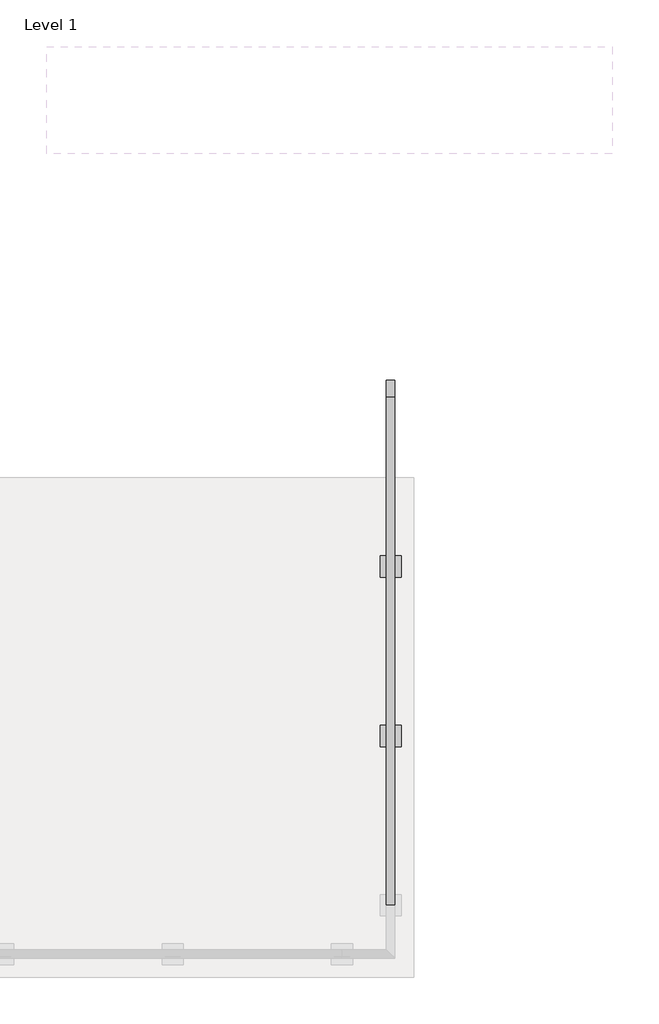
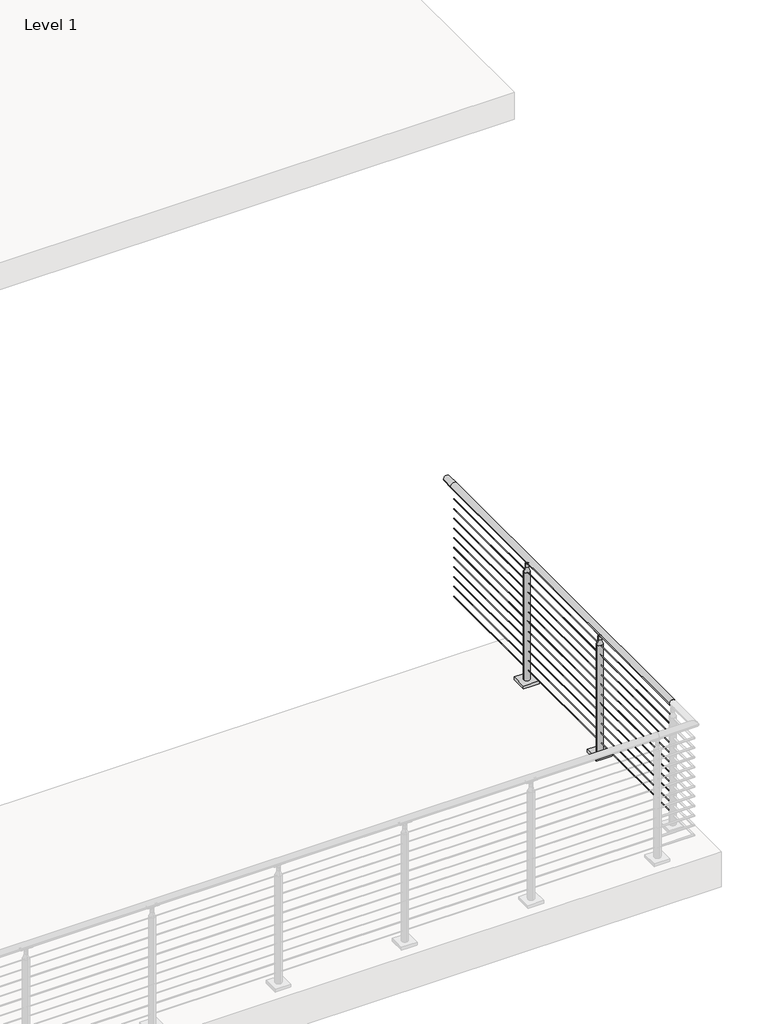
# One storey, part 12 of 21: 1 railing.
"""IFC4 building model written with IfcOpenShell, lengths in millimetres."""

import ifcopenshell
import ifcopenshell.guid

model = None  # the IFC model being written
_history = None  # IfcOwnerHistory: only IFC2X3 demands one
_inside = {}  # id of a spatial element -> (the spatial element, [elements in it])
_under = {}  # id of a project, library or spatial element -> (it, [spatial elements below it])
_declared = {}  # id of a project -> (the project, [libraries it declares])
_typed = {}  # id of a type object -> (the type object, [elements of that type])
_made_of = {}  # id of a material, layer set ... -> (it, [elements and type objects made of it])


def new_model(schema):
    """Start an empty IFC model of exactly this schema.

    Asked for "IFC4X3", IfcOpenShell would pick the latest addendum, in which some entities
    have other attributes; the version numbers below select the first issue.
    IFC2X3 requires an IfcOwnerHistory on every rooted entity: one is made here for all.
    """
    global model, _history
    if schema == "IFC4X3":
        model = ifcopenshell.file(schema_version=(4, 3, 0, 0))
    else:
        model = ifcopenshell.file(schema=schema)
    _inside.clear()
    _under.clear()
    _declared.clear()
    _typed.clear()
    _made_of.clear()
    _history = None
    if model.schema == "IFC2X3":
        org = make("IfcOrganization", Name="unknown")
        user = make(
            "IfcPersonAndOrganization",
            ThePerson=make("IfcPerson", FamilyName="unknown"),
            TheOrganization=org,
        )
        app = make(
            "IfcApplication",
            ApplicationDeveloper=org,
            Version="unknown",
            ApplicationFullName="unknown",
            ApplicationIdentifier="unknown",
        )
        _history = make(
            "IfcOwnerHistory",
            OwningUser=user,
            OwningApplication=app,
            ChangeAction="ADDED",
            CreationDate=0,
        )
    return model


def make(cls, **values):
    """One entity of the class cls with the attributes given. An attribute that is None is left unset."""
    return model.create_entity(
        cls, **{name: value for name, value in values.items() if value is not None}
    )


def rooted(cls, **values):
    """An entity with a GlobalId (a new one), such as an element, a storey or a relation."""
    return make(cls, GlobalId=ifcopenshell.guid.new(), OwnerHistory=_history, **values)


def si_unit(unit_type, name, prefix=None):
    """IfcSIUnit, for example si_unit("LENGTHUNIT", "METRE", prefix="MILLI")."""
    return make("IfcSIUnit", UnitType=unit_type, Prefix=prefix, Name=name)


def assignment(units):
    """IfcUnitAssignment: the units of a project."""
    return None if units is None else make("IfcUnitAssignment", Units=units)


def point(xyz):
    """IfcCartesianPoint."""
    return None if xyz is None else make("IfcCartesianPoint", Coordinates=xyz)


def direction(xyz):
    """IfcDirection."""
    return None if xyz is None else make("IfcDirection", DirectionRatios=xyz)


def frame(location, z_axis=None, x_axis=None):
    """IfcAxis2Placement3D, a coordinate frame: its origin and axes. An axis left out is left unset."""
    return make(
        "IfcAxis2Placement3D",
        Location=point(location),
        Axis=direction(z_axis),
        RefDirection=direction(x_axis),
    )


def frame_2d(location, x_axis=None):
    """IfcAxis2Placement2D, a coordinate frame in the plane: its origin and x axis."""
    return make(
        "IfcAxis2Placement2D", Location=point(location), RefDirection=direction(x_axis)
    )


def origin():
    """The frame at (0, 0, 0) with its axes left unset."""
    return frame((0.0, 0.0, 0.0))


def origin_with_axes():
    """The frame at (0, 0, 0) with the z axis (0, 0, 1) and the x axis (1, 0, 0) written out."""
    return frame((0.0, 0.0, 0.0), z_axis=(0.0, 0.0, 1.0), x_axis=(1.0, 0.0, 0.0))


def place(relative_to, where):
    """IfcLocalPlacement: puts the frame where relative to a parent placement (None: the world)."""
    return make(
        "IfcLocalPlacement", PlacementRelTo=relative_to, RelativePlacement=where
    )


def context(
    kind, dimensions, precision=None, world=None, true_north=None, identifier=None
):
    """IfcGeometricRepresentationContext, for example the 3D "Model" context."""
    return make(
        "IfcGeometricRepresentationContext",
        ContextIdentifier=identifier,
        ContextType=kind,
        CoordinateSpaceDimension=dimensions,
        Precision=precision,
        WorldCoordinateSystem=world,
        TrueNorth=true_north,
    )


def project(units=None, contexts=None):
    """IfcProject with its units and contexts."""
    return rooted(
        "IfcProject",
        Name="project",
        RepresentationContexts=contexts,
        UnitsInContext=assignment(units),
    )


def spatial(cls, under=None, at=None, **own):
    """A site, building, storey or space (cls), placed at a placement, below another one or the project."""
    s = rooted(cls, ObjectPlacement=at, **own)
    if under is not None:
        _under.setdefault(under.id(), (under, []))[1].append(s)
    return s


def polyline(points):
    """IfcPolyline through the points."""
    return make("IfcPolyline", Points=[point(p) for p in points])


def circle_curve(where, radius):
    """IfcCircle in the frame where."""
    return make("IfcCircle", Position=where, Radius=radius)


def ellipse_curve(where, semi_axis1, semi_axis2):
    """IfcEllipse in the frame where."""
    return make(
        "IfcEllipse", Position=where, SemiAxis1=semi_axis1, SemiAxis2=semi_axis2
    )


def trimmed(basis, trim1, trim2, sense, master):
    """IfcTrimmedCurve: the piece of a basis curve between two trims."""
    return make(
        "IfcTrimmedCurve",
        BasisCurve=basis,
        Trim1=trim1,
        Trim2=trim2,
        SenseAgreement=sense,
        MasterRepresentation=master,
    )


def segment(curve, same_sense, transition):
    """IfcCompositeCurveSegment."""
    return make(
        "IfcCompositeCurveSegment",
        Transition=transition,
        SameSense=same_sense,
        ParentCurve=curve,
    )


def composite_curve(segments, self_intersect=None):
    """IfcCompositeCurve: segments joined end to end."""
    return make("IfcCompositeCurve", Segments=segments, SelfIntersect=self_intersect)


def outline(outer, holes=None, kind="AREA"):
    """IfcArbitraryClosedProfileDef: a profile drawn as a closed curve; with holes, ...WithVoids."""
    if holes is None:
        return make("IfcArbitraryClosedProfileDef", ProfileType=kind, OuterCurve=outer)
    return make(
        "IfcArbitraryProfileDefWithVoids",
        ProfileType=kind,
        OuterCurve=outer,
        InnerCurves=holes,
    )


def extrude(swept, where, along, depth):
    """IfcExtrudedAreaSolid: the profile swept, set in the frame where, extruded along a direction by depth."""
    return make(
        "IfcExtrudedAreaSolid",
        SweptArea=swept,
        Position=where,
        ExtrudedDirection=direction(along),
        Depth=depth,
    )


def shape(context_of_items, identifier, shape_type, items):
    """IfcShapeRepresentation: the items that make up one representation, for example the "Body"."""
    return make(
        "IfcShapeRepresentation",
        ContextOfItems=context_of_items,
        RepresentationIdentifier=identifier,
        RepresentationType=shape_type,
        Items=items,
    )


def made_of(thing, what):
    """Note that an element or type object is made of a material, layer set ...; save() writes the relation."""
    if what is not None:
        _made_of.setdefault(what.id(), (what, []))[1].append(thing)
    return thing


def element(
    cls,
    number,
    at=None,
    inside=None,
    cuts=None,
    type_object=None,
    material=None,
    context=None,
    identifier="Body",
    shape_type=None,
    held_by="IfcProductDefinitionShape",
    body=None,
    shapes=None,
    **own,
):
    """One element of the class cls, such as IfcWall. Its Tag is "e" and its number.

    at: its placement. inside: the storey or other place that contains it. cuts: it is an
    opening in that element (IfcRelVoidsElement). A single representation is given by context,
    identifier, shape_type and body (its items); several are given by shapes. held_by: the class
    of the entity that holds the representations. save() writes the other relations.
    """
    e = rooted(cls, Tag="e%d" % number, ObjectPlacement=at, **own)
    if body is not None:
        shapes = [shape(context, identifier, shape_type, body)]
    if shapes is not None:
        e.Representation = make(held_by, Representations=shapes)
    if inside is not None:
        _inside.setdefault(inside.id(), (inside, []))[1].append(e)
    if cuts is not None:
        rooted(
            "IfcRelVoidsElement", RelatingBuildingElement=cuts, RelatedOpeningElement=e
        )
    if type_object is not None:
        _typed.setdefault(type_object.id(), (type_object, []))[1].append(e)
    return made_of(e, material)


def aggregate(whole, parts):
    """IfcRelAggregates: a whole, such as a stair, and the parts it consists of."""
    return rooted("IfcRelAggregates", RelatingObject=whole, RelatedObjects=parts)


def save(model, path):
    """Write the relations noted so far, then the file.

    IfcRelAggregates (storeys below a building ...), IfcRelContainedInSpatialStructure (elements
    in a storey), IfcRelDefinesByType, IfcRelAssociatesMaterial and IfcRelDeclares: one each for
    every whole, place, type object, material and project.
    """
    for whole, parts in _under.values():
        aggregate(whole, parts)
    for where, things in _inside.values():
        rooted(
            "IfcRelContainedInSpatialStructure",
            RelatedElements=things,
            RelatingStructure=where,
        )
    for kind, things in _typed.values():
        rooted("IfcRelDefinesByType", RelatedObjects=things, RelatingType=kind)
    for what, things in _made_of.values():
        rooted("IfcRelAssociatesMaterial", RelatedObjects=things, RelatingMaterial=what)
    for by, libraries in _declared.values():
        rooted("IfcRelDeclares", RelatingContext=by, RelatedDefinitions=libraries)
    model.write(path)


def plane_surface(at):
    """IfcPlane: the flat surface through the origin of the frame at, square to its z axis."""
    return make("IfcPlane", Position=at)


def cylinder_surface(at, radius):
    """IfcCylindricalSurface: all points at the distance radius from the z axis of the frame at."""
    return make("IfcCylindricalSurface", Position=at, Radius=radius)


def revolved_surface(curve, axis_point, axis_direction):
    """IfcSurfaceOfRevolution: the curve turned about the line through axis_point along axis_direction."""
    return make(
        "IfcSurfaceOfRevolution",
        SweptCurve=make("IfcArbitraryOpenProfileDef", ProfileType="CURVE", Curve=curve),
        AxisPosition=make("IfcAxis1Placement", Location=point(axis_point), Axis=direction(axis_direction)),
    )


def advanced_brep(points, edges, surfaces, faces):
    """IfcAdvancedBrep: a solid bounded by faces that lie on surfaces and meet in shared edges.

    An edge is (start, end): straight between two places in points (the first is 0);
    or (start, end, curve); or (start, end, curve, False) where it runs against its curve.
    A face is (place in surfaces, loops), or (place, loops, False) where it looks against
    its surface's normal. A loop lists edges by number (the first is 1), with a minus sign
    where the edge is run from its end to its start. The first loop is the outer one.
    """
    corners = [point(p) for p in points]
    vertices = [make("IfcVertexPoint", VertexGeometry=c) for c in corners]
    made = []
    for start, end, *more in edges:
        made.append(
            make(
                "IfcEdgeCurve",
                EdgeStart=vertices[start],
                EdgeEnd=vertices[end],
                EdgeGeometry=more[0] if more else make("IfcPolyline", Points=[corners[start], corners[end]]),
                SameSense=more[1] if len(more) > 1 else True,
            )
        )
    hull = []
    for where, loops, *sense in faces:
        bounds = []
        for j, loop in enumerate(loops):
            ring = [make("IfcOrientedEdge", EdgeElement=made[abs(k) - 1], Orientation=k > 0) for k in loop]
            bounds.append(
                make(
                    "IfcFaceOuterBound" if j == 0 else "IfcFaceBound",
                    Bound=make("IfcEdgeLoop", EdgeList=ring),
                    Orientation=True,
                )
            )
        hull.append(make("IfcAdvancedFace", Bounds=bounds, FaceSurface=surfaces[where], SameSense=sense[0] if sense else True))
    return make("IfcAdvancedBrep", Outer=make("IfcClosedShell", CfsFaces=hull))


model = new_model("IFC4")

# Units and contexts
model_context = context("Model", 3, world=origin())
ifc_project = project(units=[si_unit("LENGTHUNIT", "METRE", prefix="MILLI")], contexts=[model_context])

# Site, building, storey
site = spatial("IfcSite", under=ifc_project)
building = spatial("IfcBuilding", under=site)
storey = spatial("IfcBuildingStorey", under=building, Name="Level 1", Elevation=0.0)

# Railing
placement = place(None, origin())
element("IfcRailing", 1, ObjectType="VIVA-CIRCA-Cable-Floor Mount-Straight", at=placement, inside=storey, context=model_context, shape_type="SolidModel", body=[
    advanced_brep(
    [(19629.2855247, -56752.6334719, 1054.1), (19578.4855247, -56752.6334719, 1054.1), (19629.2855247, -53704.6334719, 1054.1), (19578.4855247, -53704.6334719, 1054.1), (19629.2855247, -53603.0334719, 1054.1), (19578.4855247, -53603.0334719, 1054.1)],
    [
        (0, 1, circle_curve(frame((19603.8855247, -56752.6334719, 1054.1), z_axis=(0.0, -1.0, 0.0), x_axis=(-1.0, 0.0, 0.0)), 25.4)),
        (1, 0, circle_curve(frame((19603.8855247, -56752.6334719, 1054.1), z_axis=(0.0, -1.0, 0.0), x_axis=(-1.0, 0.0, 0.0)), 25.4)),
        (0, 2),
        (2, 3, circle_curve(frame((19603.8855247, -53704.6334719, 1054.1), z_axis=(0.0, -1.0, 0.0), x_axis=(-1.0, 0.0, 0.0)), 25.4)),
        (3, 1),
        (3, 2, circle_curve(frame((19603.8855247, -53704.6334719, 1054.1), z_axis=(0.0, -1.0, 0.0), x_axis=(-1.0, 0.0, 0.0)), 25.4)),
        (4, 5, circle_curve(frame((19603.8855247, -53603.0334719, 1054.1), z_axis=(0.0, 1.0, 0.0), x_axis=(-1.0, 0.0, 0.0)), 25.4)),
        (5, 4, circle_curve(frame((19603.8855247, -53603.0334719, 1054.1), z_axis=(0.0, 1.0, 0.0), x_axis=(-1.0, 0.0, 0.0)), 25.4)),
        (2, 4),
        (5, 3),
    ],
    [
        plane_surface(frame((19603.8855247, -56752.6334719, 1079.5), z_axis=(0.0, -1.0, 0.0), x_axis=(0.0, 0.0, 1.0))),
        cylinder_surface(frame((19603.8855247, -56752.6334719, 1054.1), z_axis=(0.0, -1.0, 0.0), x_axis=(-1.0, 0.0, 0.0)), 25.4),
        plane_surface(frame((19603.8855247, -53603.0334719, 1079.5), z_axis=(0.0, 1.0, 0.0), x_axis=(0.0, 0.0, 1.0))),
        cylinder_surface(frame((19603.8855247, -53704.6334719, 1054.1), z_axis=(0.0, -1.0, 0.0), x_axis=(-1.0, 0.0, 0.0)), 25.4),
    ],
    [
        (0, [[1, 2]]),
        (1, [[-1, 3, 4, 5]]),
        (1, [[-2, -5, 6, -3]]),
        (2, [[7, 8]]),
        (3, [[-4, 9, -8, 10]]),
        (3, [[-6, -10, -7, -9]]),
    ],
),
    extrude(outline(composite_curve([segment(trimmed(circle_curve(frame_2d((937.4124, 19603.8855247)), 2.3876), [point((937.4124, 19601.4979247))], [point((937.4124, 19606.2731247))], False, "CARTESIAN"), True, "CONTINUOUS"), segment(trimmed(circle_curve(frame_2d((937.4124, 19603.8855247)), 2.3876), [point((937.4124, 19606.2731247))], [point((937.4124, 19601.4979247))], False, "CARTESIAN"), True, "CONTINUOUS")], self_intersect=False)), frame((0.0, -56752.6334719, 0.0), z_axis=(0.0, 1.0, 0.0), x_axis=(0.0, 0.0, 1.0)), (0.0, 0.0, 1.0), 3048.0),
    extrude(outline(composite_curve([segment(trimmed(circle_curve(frame_2d((854.8624, 19603.8855247)), 2.3876), [point((854.8624, 19601.4979247))], [point((854.8624, 19606.2731247))], False, "CARTESIAN"), True, "CONTINUOUS"), segment(trimmed(circle_curve(frame_2d((854.8624, 19603.8855247)), 2.3876), [point((854.8624, 19606.2731247))], [point((854.8624, 19601.4979247))], False, "CARTESIAN"), True, "CONTINUOUS")], self_intersect=False)), frame((0.0, -56752.6334719, 0.0), z_axis=(0.0, 1.0, 0.0), x_axis=(0.0, 0.0, 1.0)), (0.0, 0.0, 1.0), 3048.0),
    extrude(outline(composite_curve([segment(trimmed(circle_curve(frame_2d((772.3124, 19603.8855247)), 2.3876), [point((772.3124, 19601.4979247))], [point((772.3124, 19606.2731247))], False, "CARTESIAN"), True, "CONTINUOUS"), segment(trimmed(circle_curve(frame_2d((772.3124, 19603.8855247)), 2.3876), [point((772.3124, 19606.2731247))], [point((772.3124, 19601.4979247))], False, "CARTESIAN"), True, "CONTINUOUS")], self_intersect=False)), frame((0.0, -56752.6334719, 0.0), z_axis=(0.0, 1.0, 0.0), x_axis=(0.0, 0.0, 1.0)), (0.0, 0.0, 1.0), 3048.0),
    extrude(outline(composite_curve([segment(trimmed(circle_curve(frame_2d((689.7624, 19603.8855247)), 2.3876), [point((689.7624, 19601.4979247))], [point((689.7624, 19606.2731247))], False, "CARTESIAN"), True, "CONTINUOUS"), segment(trimmed(circle_curve(frame_2d((689.7624, 19603.8855247)), 2.3876), [point((689.7624, 19606.2731247))], [point((689.7624, 19601.4979247))], False, "CARTESIAN"), True, "CONTINUOUS")], self_intersect=False)), frame((0.0, -56752.6334719, 0.0), z_axis=(0.0, 1.0, 0.0), x_axis=(0.0, 0.0, 1.0)), (0.0, 0.0, 1.0), 3048.0),
    extrude(outline(composite_curve([segment(trimmed(circle_curve(frame_2d((607.2124, 19603.8855247)), 2.3876), [point((607.2124, 19601.4979247))], [point((607.2124, 19606.2731247))], False, "CARTESIAN"), True, "CONTINUOUS"), segment(trimmed(circle_curve(frame_2d((607.2124, 19603.8855247)), 2.3876), [point((607.2124, 19606.2731247))], [point((607.2124, 19601.4979247))], False, "CARTESIAN"), True, "CONTINUOUS")], self_intersect=False)), frame((0.0, -56752.6334719, 0.0), z_axis=(0.0, 1.0, 0.0), x_axis=(0.0, 0.0, 1.0)), (0.0, 0.0, 1.0), 3048.0),
    extrude(outline(composite_curve([segment(trimmed(circle_curve(frame_2d((524.6624, 19603.8855247)), 2.3876), [point((524.6624, 19601.4979247))], [point((524.6624, 19606.2731247))], False, "CARTESIAN"), True, "CONTINUOUS"), segment(trimmed(circle_curve(frame_2d((524.6624, 19603.8855247)), 2.3876), [point((524.6624, 19606.2731247))], [point((524.6624, 19601.4979247))], False, "CARTESIAN"), True, "CONTINUOUS")], self_intersect=False)), frame((0.0, -56752.6334719, 0.0), z_axis=(0.0, 1.0, 0.0), x_axis=(0.0, 0.0, 1.0)), (0.0, 0.0, 1.0), 3048.0),
    extrude(outline(composite_curve([segment(trimmed(circle_curve(frame_2d((442.1124, 19603.8855247)), 2.3876), [point((442.1124, 19601.4979247))], [point((442.1124, 19606.2731247))], False, "CARTESIAN"), True, "CONTINUOUS"), segment(trimmed(circle_curve(frame_2d((442.1124, 19603.8855247)), 2.3876), [point((442.1124, 19606.2731247))], [point((442.1124, 19601.4979247))], False, "CARTESIAN"), True, "CONTINUOUS")], self_intersect=False)), frame((0.0, -56752.6334719, 0.0), z_axis=(0.0, 1.0, 0.0), x_axis=(0.0, 0.0, 1.0)), (0.0, 0.0, 1.0), 3048.0),
    extrude(outline(composite_curve([segment(trimmed(circle_curve(frame_2d((359.5624, 19603.8855247)), 2.3876), [point((359.5624, 19601.4979247))], [point((359.5624, 19606.2731247))], False, "CARTESIAN"), True, "CONTINUOUS"), segment(trimmed(circle_curve(frame_2d((359.5624, 19603.8855247)), 2.3876), [point((359.5624, 19606.2731247))], [point((359.5624, 19601.4979247))], False, "CARTESIAN"), True, "CONTINUOUS")], self_intersect=False)), frame((0.0, -56752.6334719, 0.0), z_axis=(0.0, 1.0, 0.0), x_axis=(0.0, 0.0, 1.0)), (0.0, 0.0, 1.0), 3048.0),
    extrude(outline(composite_curve([segment(trimmed(circle_curve(frame_2d((277.0124, 19603.8855247)), 2.3876), [point((277.0124, 19601.4979247))], [point((277.0124, 19606.2731247))], False, "CARTESIAN"), True, "CONTINUOUS"), segment(trimmed(circle_curve(frame_2d((277.0124, 19603.8855247)), 2.3876), [point((277.0124, 19606.2731247))], [point((277.0124, 19601.4979247))], False, "CARTESIAN"), True, "CONTINUOUS")], self_intersect=False)), frame((0.0, -56752.6334719, 0.0), z_axis=(0.0, 1.0, 0.0), x_axis=(0.0, 0.0, 1.0)), (0.0, 0.0, 1.0), 3048.0),
    extrude(outline(composite_curve([segment(trimmed(circle_curve(frame_2d((194.4624, 19603.8855247)), 2.3876), [point((194.4624, 19601.4979247))], [point((194.4624, 19606.2731247))], False, "CARTESIAN"), True, "CONTINUOUS"), segment(trimmed(circle_curve(frame_2d((194.4624, 19603.8855247)), 2.3876), [point((194.4624, 19606.2731247))], [point((194.4624, 19601.4979247))], False, "CARTESIAN"), True, "CONTINUOUS")], self_intersect=False)), frame((0.0, -56752.6334719, 0.0), z_axis=(0.0, 1.0, 0.0), x_axis=(0.0, 0.0, 1.0)), (0.0, 0.0, 1.0), 3048.0),
    extrude(outline(composite_curve([segment(trimmed(circle_curve(frame_2d((111.9124, 19603.8855247)), 2.3876), [point((111.9124, 19601.4979247))], [point((111.9124, 19606.2731247))], False, "CARTESIAN"), True, "CONTINUOUS"), segment(trimmed(circle_curve(frame_2d((111.9124, 19603.8855247)), 2.3876), [point((111.9124, 19606.2731247))], [point((111.9124, 19601.4979247))], False, "CARTESIAN"), True, "CONTINUOUS")], self_intersect=False)), frame((0.0, -56752.6334719, 0.0), z_axis=(0.0, 1.0, 0.0), x_axis=(0.0, 0.0, 1.0)), (0.0, 0.0, 1.0), 3048.0),
    extrude(outline(composite_curve([segment(trimmed(circle_curve(frame_2d((1055.4254922, 19603.7887963)), 25.4345159), [point((1033.3106679, 19616.3525992))], [point((1033.2157471, 19591.3935626))], True, "CARTESIAN"), True, "CONTINUOUS"), segment(trimmed(circle_curve(frame_2d((1030.7132623, 19590.1489094)), 2.7949225), [point((1033.2157471, 19591.3935626))], [point((1028.3406769, 19588.6716044))], False, "CARTESIAN"), True, "CONTINUOUS"), segment(trimmed(circle_curve(frame_2d((1056.1881188, 19603.9222594)), 31.75), [point((1028.3406769, 19588.6716044))], [point((1028.9214354, 19620.1884966))], False, "CARTESIAN"), True, "CONTINUOUS"), segment(trimmed(circle_curve(frame_2d((1030.7923545, 19617.9001569)), 2.9558141), [point((1028.9214354, 19620.1884966))], [point((1033.3106679, 19616.3525992))], False, "CARTESIAN"), True, "CONTINUOUS")], self_intersect=False)), frame((0.0, -54765.4739969, 0.0), z_axis=(0.0, 1.0, 0.0), x_axis=(0.0, 0.0, 1.0)), (0.0, 0.0, 1.0), 90.4748),
    extrude(outline(composite_curve([segment(trimmed(circle_curve(frame_2d((-54693.168682, 1010.282776)), 14.3679149), [point((-54693.168682, 1024.6506908))], [point((-54707.5365969, 1010.282776))], True, "CARTESIAN"), True, "CONTINUOUS"), segment(trimmed(circle_curve(frame_2d((-54720.2365969, 1010.282776)), 12.7), [point((-54707.5365969, 1010.282776))], [point((-54732.9365969, 1010.282776))], False, "CARTESIAN"), True, "CONTINUOUS"), segment(trimmed(circle_curve(frame_2d((-54747.3045117, 1010.282776)), 14.3679149), [point((-54732.9365969, 1010.282776))], [point((-54747.3045117, 1024.6506908))], True, "CARTESIAN"), True, "CONTINUOUS"), segment(polyline([(-54747.3045117, 1024.6506908), (-54693.168682, 1024.6506908)]), True, "CONTINUOUS")], self_intersect=False)), frame((19601.3455247, 0.0, 0.0), z_axis=(1.0, 0.0, 0.0), x_axis=(0.0, 1.0, 0.0)), (0.0, 0.0, 1.0), 5.08),
    extrude(outline(polyline([(19667.3855247, -54783.7365969), (19540.3855247, -54783.7365969), (19540.3855247, -54656.7365969), (19667.3855247, -54656.7365969), (19667.3855247, -54783.7365969)])), origin_with_axes(), (0.0, 0.0, 1.0), 25.4),
    advanced_brep(
    [(19629.2849225, -54720.2365969, 941.1347854), (19578.4861269, -54720.2365969, 941.1347854), (19578.4861269, -54720.2365969, 25.4), (19629.2849225, -54720.2365969, 25.4), (19616.6234932, -54720.2365969, 979.3486202), (19591.1475562, -54720.2365969, 979.3486202), (19616.6234932, -54720.2365969, 1008.5779599), (19591.1475562, -54720.2365969, 1008.5779599), (19603.8855247, -54720.2365969, 1015.238668), (19603.8855247, -54720.2365969, 25.4)],
    [
        (0, 1, circle_curve(frame((19603.8855247, -54720.2365969, 941.1347854), z_axis=(0.0, 0.0, -1.0), x_axis=(-1.0, 0.0, 0.0)), 25.3993978)),
        (1, 2),
        (2, 3, circle_curve(frame((19603.8855247, -54720.2365969, 25.4), z_axis=(0.0, 0.0, 1.0), x_axis=(-1.0, 0.0, 0.0)), 25.3993978)),
        (3, 0),
        (1, 0, circle_curve(frame((19603.8855247, -54720.2365969, 941.1347854), z_axis=(0.0, 0.0, -1.0), x_axis=(-1.0, 0.0, 0.0)), 25.3993978)),
        (3, 2, circle_curve(frame((19603.8855247, -54720.2365969, 25.4), z_axis=(0.0, 0.0, 1.0), x_axis=(-1.0, 0.0, 0.0)), 25.3993978)),
        (4, 5, circle_curve(frame((19603.8855247, -54720.2365969, 979.3486202), z_axis=(0.0, 0.0, -1.0), x_axis=(-1.0, 0.0, 0.0)), 12.7379685)),
        (5, 1, circle_curve(frame((19527.1496879, -54720.2365969, 979.3486202), z_axis=(0.0, 1.0, 0.0), x_axis=(-1.0, 0.0, 0.0)), 63.9978683)),
        (0, 4, circle_curve(frame((19680.6213615, -54720.2365969, 979.3486202), z_axis=(0.0, 1.0, 0.0), x_axis=(1.0, 0.0, 0.0)), 63.9978683)),
        (5, 4, circle_curve(frame((19603.8855247, -54720.2365969, 979.3486202), z_axis=(0.0, 0.0, -1.0), x_axis=(-1.0, 0.0, 0.0)), 12.7379685)),
        (6, 7, circle_curve(frame((19603.8855247, -54720.2365969, 1008.5779599), z_axis=(0.0, 0.0, -1.0), x_axis=(-1.0, 0.0, 0.0)), 12.7379685)),
        (7, 5),
        (4, 6),
        (7, 6, circle_curve(frame((19603.8855247, -54720.2365969, 1008.5779599), z_axis=(0.0, 0.0, -1.0), x_axis=(-1.0, 0.0, 0.0)), 12.7379685)),
        (8, 7, circle_curve(frame((19603.8855247, -54720.2365969, 999.7282394), z_axis=(0.0, -1.0, 0.0), x_axis=(-1.0, 0.0, 0.0)), 15.5104286)),
        (6, 8, circle_curve(frame((19603.8855247, -54720.2365969, 999.7282394), z_axis=(0.0, -1.0, 0.0), x_axis=(1.0, 0.0, 0.0)), 15.5104286)),
        (2, 9),
        (9, 3),
    ],
    [
        cylinder_surface(frame((19603.8855247, -54720.2365969, 1104.9), z_axis=(0.0, 0.0, 1.0), x_axis=(-1.0, 0.0, 0.0)), 25.3993978),
        revolved_surface(trimmed(ellipse_curve(frame((19527.1496879, -54720.2365969, 979.3486202), z_axis=(0.0, -1.0, 0.0), x_axis=(-1.0, 0.0, 0.0)), 63.9978683, 63.9978683), [point((19578.4861269, -54720.2365969, 941.1347854))], [point((19591.1475562, -54720.2365969, 979.3486202))], True, "CARTESIAN"), (19603.8855247, -54720.2365969, 1104.9), (0.0, 0.0, 1.0)),
        cylinder_surface(frame((19603.8855247, -54720.2365969, 1104.9), z_axis=(0.0, 0.0, 1.0), x_axis=(-1.0, 0.0, 0.0)), 12.7379685),
        revolved_surface(trimmed(ellipse_curve(frame((19603.8855247, -54720.2365969, 999.7282394), z_axis=(0.0, 1.0, 0.0), x_axis=(-1.0, 0.0, 0.0)), 15.5104286, 15.5104286), [point((19591.1475562, -54720.2365969, 1008.5779599))], [point((19603.8855247, -54720.2365969, 1015.238668))], True, "CARTESIAN"), (19603.8855247, -54720.2365969, 1104.9), (0.0, 0.0, 1.0)),
        plane_surface(frame((19603.8855247, -54720.2365969, 25.4), z_axis=(0.0, 0.0, -1.0), x_axis=(-1.0, 0.0, 0.0))),
    ],
    [
        (0, [[1, 2, 3, 4]]),
        (0, [[5, -4, 6, -2]]),
        (1, [[7, 8, -1, 9]]),
        (1, [[10, -9, -5, -8]]),
        (2, [[11, 12, -7, 13]]),
        (2, [[14, -13, -10, -12]]),
        (3, [[15, -11, 16]]),
        (3, [[-16, -14, -15]]),
        (4, [[-3, 17, 18]]),
        (4, [[-6, -18, -17]]),
    ],
),
    extrude(outline(composite_curve([segment(trimmed(circle_curve(frame_2d((1055.4254922, 19603.7887963)), 25.4345159), [point((1033.3106679, 19616.3525992))], [point((1033.2157471, 19591.3935626))], True, "CARTESIAN"), True, "CONTINUOUS"), segment(trimmed(circle_curve(frame_2d((1030.7132623, 19590.1489094)), 2.7949225), [point((1033.2157471, 19591.3935626))], [point((1028.3406769, 19588.6716044))], False, "CARTESIAN"), True, "CONTINUOUS"), segment(trimmed(circle_curve(frame_2d((1056.1881188, 19603.9222594)), 31.75), [point((1028.3406769, 19588.6716044))], [point((1028.9214354, 19620.1884966))], False, "CARTESIAN"), True, "CONTINUOUS"), segment(trimmed(circle_curve(frame_2d((1030.7923545, 19617.9001569)), 2.9558141), [point((1028.9214354, 19620.1884966))], [point((1033.3106679, 19616.3525992))], False, "CARTESIAN"), True, "CONTINUOUS")], self_intersect=False)), frame((0.0, -55781.4739969, 0.0), z_axis=(0.0, 1.0, 0.0), x_axis=(0.0, 0.0, 1.0)), (0.0, 0.0, 1.0), 90.4748),
    extrude(outline(composite_curve([segment(trimmed(circle_curve(frame_2d((-55709.168682, 1010.282776)), 14.3679149), [point((-55709.168682, 1024.6506908))], [point((-55723.5365969, 1010.282776))], True, "CARTESIAN"), True, "CONTINUOUS"), segment(trimmed(circle_curve(frame_2d((-55736.2365969, 1010.282776)), 12.7), [point((-55723.5365969, 1010.282776))], [point((-55748.9365969, 1010.282776))], False, "CARTESIAN"), True, "CONTINUOUS"), segment(trimmed(circle_curve(frame_2d((-55763.3045117, 1010.282776)), 14.3679149), [point((-55748.9365969, 1010.282776))], [point((-55763.3045117, 1024.6506908))], True, "CARTESIAN"), True, "CONTINUOUS"), segment(polyline([(-55763.3045117, 1024.6506908), (-55709.168682, 1024.6506908)]), True, "CONTINUOUS")], self_intersect=False)), frame((19601.3455247, 0.0, 0.0), z_axis=(1.0, 0.0, 0.0), x_axis=(0.0, 1.0, 0.0)), (0.0, 0.0, 1.0), 5.08),
    extrude(outline(polyline([(19667.3855247, -55799.7365969), (19540.3855247, -55799.7365969), (19540.3855247, -55672.7365969), (19667.3855247, -55672.7365969), (19667.3855247, -55799.7365969)])), origin_with_axes(), (0.0, 0.0, 1.0), 25.4),
    advanced_brep(
    [(19629.2849225, -55736.2365969, 941.1347854), (19578.4861269, -55736.2365969, 941.1347854), (19578.4861269, -55736.2365969, 25.4), (19629.2849225, -55736.2365969, 25.4), (19616.6234932, -55736.2365969, 979.3486202), (19591.1475562, -55736.2365969, 979.3486202), (19616.6234932, -55736.2365969, 1008.5779599), (19591.1475562, -55736.2365969, 1008.5779599), (19603.8855247, -55736.2365969, 1015.238668), (19603.8855247, -55736.2365969, 25.4)],
    [
        (0, 1, circle_curve(frame((19603.8855247, -55736.2365969, 941.1347854), z_axis=(0.0, 0.0, -1.0), x_axis=(-1.0, 0.0, 0.0)), 25.3993978)),
        (1, 2),
        (2, 3, circle_curve(frame((19603.8855247, -55736.2365969, 25.4), z_axis=(0.0, 0.0, 1.0), x_axis=(-1.0, 0.0, 0.0)), 25.3993978)),
        (3, 0),
        (1, 0, circle_curve(frame((19603.8855247, -55736.2365969, 941.1347854), z_axis=(0.0, 0.0, -1.0), x_axis=(-1.0, 0.0, 0.0)), 25.3993978)),
        (3, 2, circle_curve(frame((19603.8855247, -55736.2365969, 25.4), z_axis=(0.0, 0.0, 1.0), x_axis=(-1.0, 0.0, 0.0)), 25.3993978)),
        (4, 5, circle_curve(frame((19603.8855247, -55736.2365969, 979.3486202), z_axis=(0.0, 0.0, -1.0), x_axis=(-1.0, 0.0, 0.0)), 12.7379685)),
        (5, 1, circle_curve(frame((19527.1496879, -55736.2365969, 979.3486202), z_axis=(0.0, 1.0, 0.0), x_axis=(-1.0, 0.0, 0.0)), 63.9978683)),
        (0, 4, circle_curve(frame((19680.6213615, -55736.2365969, 979.3486202), z_axis=(0.0, 1.0, 0.0), x_axis=(1.0, 0.0, 0.0)), 63.9978683)),
        (5, 4, circle_curve(frame((19603.8855247, -55736.2365969, 979.3486202), z_axis=(0.0, 0.0, -1.0), x_axis=(-1.0, 0.0, 0.0)), 12.7379685)),
        (6, 7, circle_curve(frame((19603.8855247, -55736.2365969, 1008.5779599), z_axis=(0.0, 0.0, -1.0), x_axis=(-1.0, 0.0, 0.0)), 12.7379685)),
        (7, 5),
        (4, 6),
        (7, 6, circle_curve(frame((19603.8855247, -55736.2365969, 1008.5779599), z_axis=(0.0, 0.0, -1.0), x_axis=(-1.0, 0.0, 0.0)), 12.7379685)),
        (8, 7, circle_curve(frame((19603.8855247, -55736.2365969, 999.7282394), z_axis=(0.0, -1.0, 0.0), x_axis=(-1.0, 0.0, 0.0)), 15.5104286)),
        (6, 8, circle_curve(frame((19603.8855247, -55736.2365969, 999.7282394), z_axis=(0.0, -1.0, 0.0), x_axis=(1.0, 0.0, 0.0)), 15.5104286)),
        (2, 9),
        (9, 3),
    ],
    [
        cylinder_surface(frame((19603.8855247, -55736.2365969, 1104.9), z_axis=(0.0, 0.0, 1.0), x_axis=(-1.0, 0.0, 0.0)), 25.3993978),
        revolved_surface(trimmed(ellipse_curve(frame((19527.1496879, -55736.2365969, 979.3486202), z_axis=(0.0, -1.0, 0.0), x_axis=(-1.0, 0.0, 0.0)), 63.9978683, 63.9978683), [point((19578.4861269, -55736.2365969, 941.1347854))], [point((19591.1475562, -55736.2365969, 979.3486202))], True, "CARTESIAN"), (19603.8855247, -55736.2365969, 1104.9), (0.0, 0.0, 1.0)),
        cylinder_surface(frame((19603.8855247, -55736.2365969, 1104.9), z_axis=(0.0, 0.0, 1.0), x_axis=(-1.0, 0.0, 0.0)), 12.7379685),
        revolved_surface(trimmed(ellipse_curve(frame((19603.8855247, -55736.2365969, 999.7282394), z_axis=(0.0, 1.0, 0.0), x_axis=(-1.0, 0.0, 0.0)), 15.5104286, 15.5104286), [point((19591.1475562, -55736.2365969, 1008.5779599))], [point((19603.8855247, -55736.2365969, 1015.238668))], True, "CARTESIAN"), (19603.8855247, -55736.2365969, 1104.9), (0.0, 0.0, 1.0)),
        plane_surface(frame((19603.8855247, -55736.2365969, 25.4), z_axis=(0.0, 0.0, -1.0), x_axis=(-1.0, 0.0, 0.0))),
    ],
    [
        (0, [[1, 2, 3, 4]]),
        (0, [[5, -4, 6, -2]]),
        (1, [[7, 8, -1, 9]]),
        (1, [[10, -9, -5, -8]]),
        (2, [[11, 12, -7, 13]]),
        (2, [[14, -13, -10, -12]]),
        (3, [[15, -11, 16]]),
        (3, [[-16, -14, -15]]),
        (4, [[-3, 17, 18]]),
        (4, [[-6, -18, -17]]),
    ],
),
])

save(model, "model.ifc")
